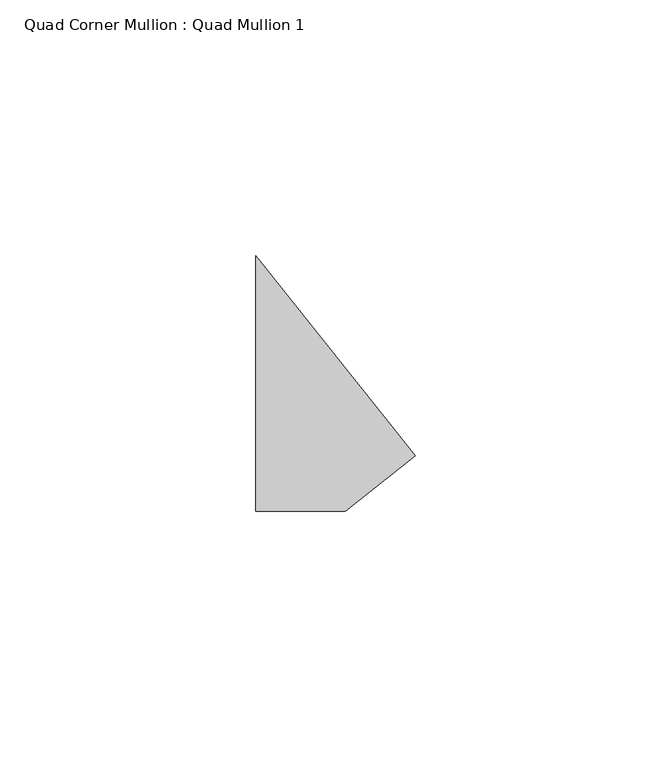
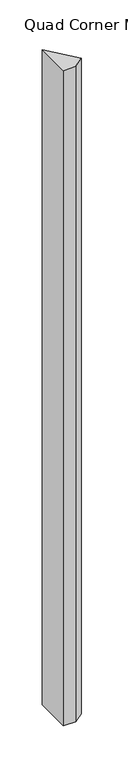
"""IFC4 building model written with IfcOpenShell, lengths in millimetres: member geometry, Quad Corner Mullion : Quad Mullion 1."""

from ifc_helpers import new_model, si_unit, frame, origin, place, context, project, spatial, polyline, outline, extrude, source, transform, mapped, element, save


def quad_corner_mullion_quad_mullion_1_618e36cc(model_context):
    return source(origin(), model_context, "Body", "SweptSolid", [
        extrude(outline(polyline([(22.4169637, -14.1035695), (8.7424787, -25.0), (-8.7424787, -25.0), (-8.7424787, 25.0), (22.4169637, -14.1035695)])), frame((0.0, 0.0, -950.0), z_axis=(0.0, 0.0, 1.0), x_axis=(1.0, 0.0, 0.0)), (0.0, 0.0, 1.0), 950.0),
    ])


if __name__ == "__main__":
    model = new_model("IFC4")
    model_context = context("Model", 3, world=origin())
    ifc_project = project(units=[si_unit("LENGTHUNIT", "METRE", prefix="MILLI")], contexts=[model_context])
    site = spatial("IfcSite", under=ifc_project)
    building = spatial("IfcBuilding", under=site)
    placement = place(None, origin())
    quad_corner_mullion_quad_mullion_1_shape = quad_corner_mullion_quad_mullion_1_618e36cc(model_context)
    element("IfcMember", 1, ObjectType="Quad Corner Mullion : Quad Mullion 1", at=placement, inside=building, context=model_context, shape_type="MappedRepresentation", body=[
        mapped(quad_corner_mullion_quad_mullion_1_shape, transform((0.0, 0.0, 0.0), x_axis=(1.0, 0.0, 0.0), y_axis=(0.0, 1.0, 0.0), z_axis=(0.0, 0.0, 1.0))),
    ])
    save(model, "model.ifc")
